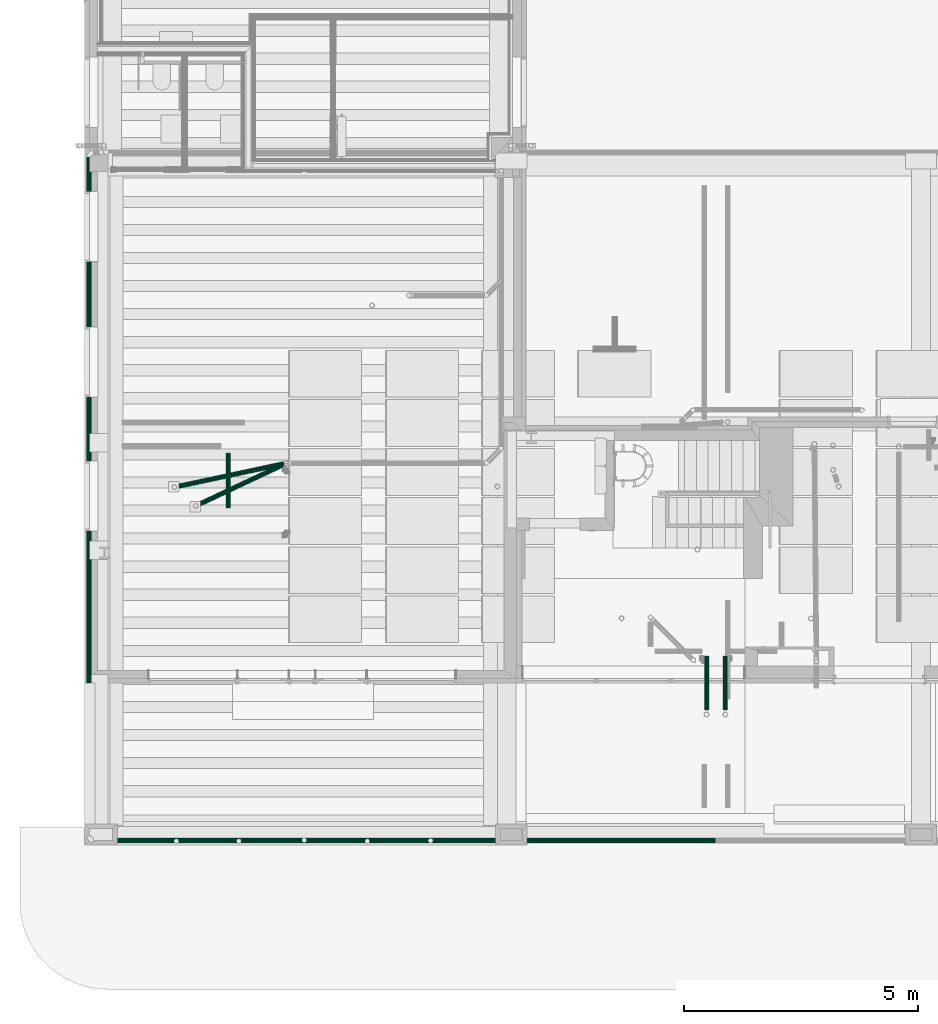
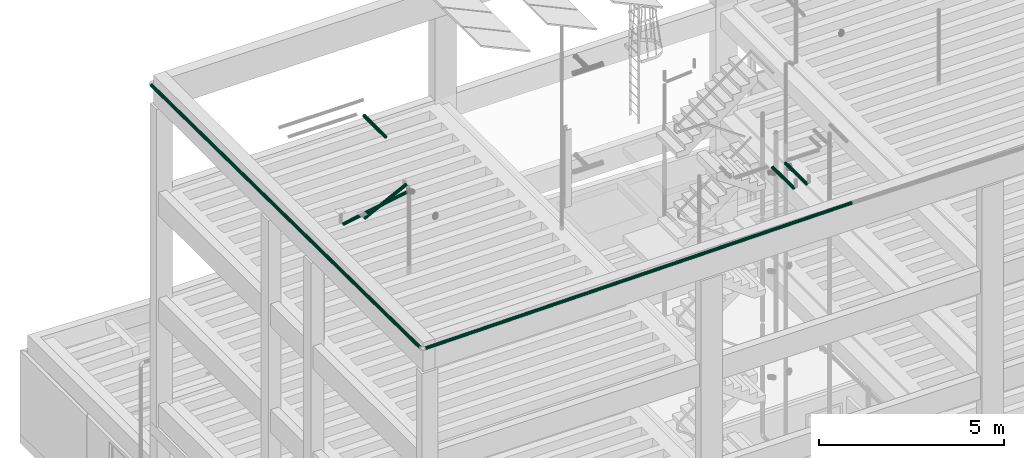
# One storey, part 36 of 108: 7 flow segments.
"""IFC2X3 building model written with IfcOpenShell, lengths in metres."""

from ifc_helpers import new_model, entity, si_unit, converted_unit, derived_unit, money_unit, direction, frame, origin_with_axes, place, context, subcontext, project, spatial, faceted_brep, material, type_object, element, save


model = new_model("IFC2X3")

# Units and contexts
model_context = context("Model", 3, precision=1e-05, world=origin_with_axes(), true_north=direction((0.0, 1.0)))
body_context = subcontext(model_context, "Body", "Model", "MODEL_VIEW", scale=1.0)
ifc_project = project(units=[si_unit("LENGTHUNIT", "METRE"), si_unit("AREAUNIT", "SQUARE_METRE"), si_unit("VOLUMEUNIT", "CUBIC_METRE"), si_unit("ABSORBEDDOSEUNIT", "GRAY"), si_unit("AMOUNTOFSUBSTANCEUNIT", "MOLE"), si_unit("DOSEEQUIVALENTUNIT", "SIEVERT"), si_unit("ELECTRICCAPACITANCEUNIT", "FARAD"), si_unit("ELECTRICCHARGEUNIT", "COULOMB"), si_unit("ELECTRICCONDUCTANCEUNIT", "SIEMENS"), si_unit("ELECTRICCURRENTUNIT", "AMPERE"), si_unit("ELECTRICRESISTANCEUNIT", "OHM"), si_unit("ELECTRICVOLTAGEUNIT", "VOLT"), si_unit("ENERGYUNIT", "JOULE"), si_unit("FORCEUNIT", "NEWTON"), si_unit("FREQUENCYUNIT", "HERTZ"), si_unit("ILLUMINANCEUNIT", "LUX"), si_unit("INDUCTANCEUNIT", "HENRY"), si_unit("LUMINOUSFLUXUNIT", "LUMEN"), si_unit("LUMINOUSINTENSITYUNIT", "CANDELA"), si_unit("MAGNETICFLUXDENSITYUNIT", "TESLA"), si_unit("MAGNETICFLUXUNIT", "WEBER"), si_unit("MASSUNIT", "GRAM"), converted_unit("PLANEANGLEUNIT", "degree", entity("IfcReal", 0.0174532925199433), si_unit("PLANEANGLEUNIT", "RADIAN"), dimensions=[0, 0, 0, 0, 0, 0, 0]), si_unit("POWERUNIT", "WATT"), si_unit("PRESSUREUNIT", "PASCAL"), si_unit("RADIOACTIVITYUNIT", "BECQUEREL"), si_unit("SOLIDANGLEUNIT", "STERADIAN"), si_unit("THERMODYNAMICTEMPERATUREUNIT", "KELVIN"), si_unit("TIMEUNIT", "SECOND"), derived_unit("ACCELERATIONUNIT", [(si_unit("LENGTHUNIT", "METRE"), 1), (si_unit("TIMEUNIT", "SECOND"), -2)]), derived_unit("ANGULARVELOCITYUNIT", [(converted_unit("PLANEANGLEUNIT", "degree", entity("IfcReal", 0.0174532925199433), si_unit("PLANEANGLEUNIT", "RADIAN"), dimensions=[0, 0, 0, 0, 0, 0, 0]), 1), (si_unit("TIMEUNIT", "SECOND"), -1)]), derived_unit("CURVATUREUNIT", [(converted_unit("PLANEANGLEUNIT", "degree", entity("IfcReal", 0.0174532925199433), si_unit("PLANEANGLEUNIT", "RADIAN"), dimensions=[0, 0, 0, 0, 0, 0, 0]), 1), (si_unit("LENGTHUNIT", "METRE"), -1)]), derived_unit("DYNAMICVISCOSITYUNIT", [(si_unit("PRESSUREUNIT", "PASCAL"), 1), (si_unit("TIMEUNIT", "SECOND"), 1)]), derived_unit("HEATFLUXDENSITYUNIT", [(si_unit("POWERUNIT", "WATT"), 1), (si_unit("LENGTHUNIT", "METRE"), -2)]), derived_unit("HEATINGVALUEUNIT", [(si_unit("ENERGYUNIT", "JOULE"), 1), (si_unit("MASSUNIT", "GRAM"), -1)]), derived_unit("INTEGERCOUNTRATEUNIT", [(si_unit("TIMEUNIT", "SECOND"), -1)]), derived_unit("IONCONCENTRATIONUNIT", [(si_unit("MASSUNIT", "GRAM"), 1), (si_unit("VOLUMEUNIT", "CUBIC_METRE"), -1)]), derived_unit("ISOTHERMALMOISTURECAPACITYUNIT", [(si_unit("VOLUMEUNIT", "CUBIC_METRE"), 1), (si_unit("MASSUNIT", "GRAM"), -1)]), derived_unit("KINEMATICVISCOSITYUNIT", [(si_unit("AREAUNIT", "SQUARE_METRE"), 1), (si_unit("TIMEUNIT", "SECOND"), -1)]), derived_unit("LINEARFORCEUNIT", [(si_unit("FORCEUNIT", "NEWTON"), 1), (si_unit("LENGTHUNIT", "METRE"), -1)]), derived_unit("LINEARMOMENTUNIT", [(si_unit("FORCEUNIT", "NEWTON"), 1), (si_unit("LENGTHUNIT", "METRE"), -1)]), derived_unit("LINEARSTIFFNESSUNIT", [(si_unit("FORCEUNIT", "NEWTON"), 1), (si_unit("LENGTHUNIT", "METRE"), -1)]), derived_unit("LINEARVELOCITYUNIT", [(si_unit("LENGTHUNIT", "METRE"), 1), (si_unit("TIMEUNIT", "SECOND"), -1)]), derived_unit("LUMINOUSINTENSITYDISTRIBUTIONUNIT", [(si_unit("LUMINOUSINTENSITYUNIT", "CANDELA"), 1), (si_unit("LUMINOUSFLUXUNIT", "LUMEN"), -1)]), derived_unit("MASSDENSITYUNIT", [(si_unit("MASSUNIT", "GRAM"), 1), (si_unit("VOLUMEUNIT", "CUBIC_METRE"), -1)]), derived_unit("MASSFLOWRATEUNIT", [(si_unit("MASSUNIT", "GRAM"), 1), (si_unit("TIMEUNIT", "SECOND"), -1)]), derived_unit("MASSPERLENGTHUNIT", [(si_unit("MASSUNIT", "GRAM"), 1), (si_unit("LENGTHUNIT", "METRE"), -1)]), derived_unit("MODULUSOFELASTICITYUNIT", [(si_unit("FORCEUNIT", "NEWTON"), 1), (si_unit("AREAUNIT", "SQUARE_METRE"), -1)]), derived_unit("MODULUSOFLINEARSUBGRADEREACTIONUNIT", [(si_unit("FORCEUNIT", "NEWTON"), 1), (si_unit("LENGTHUNIT", "METRE"), -2)]), derived_unit("MODULUSOFROTATIONALSUBGRADEREACTIONUNIT", [(si_unit("FORCEUNIT", "NEWTON"), 1), (si_unit("LENGTHUNIT", "METRE"), 1)]), derived_unit("MODULUSOFSUBGRADEREACTIONUNIT", [(si_unit("FORCEUNIT", "NEWTON"), 1), (si_unit("VOLUMEUNIT", "CUBIC_METRE"), -1)]), derived_unit("MOISTUREDIFFUSIVITYUNIT", [(si_unit("VOLUMEUNIT", "CUBIC_METRE"), 1), (si_unit("TIMEUNIT", "SECOND"), -1)]), derived_unit("MOLECULARWEIGHTUNIT", [(si_unit("MASSUNIT", "GRAM"), 1), (si_unit("AMOUNTOFSUBSTANCEUNIT", "MOLE"), -1)]), derived_unit("PLANARFORCEUNIT", [(si_unit("FORCEUNIT", "NEWTON"), 1), (si_unit("LENGTHUNIT", "METRE"), -2)]), derived_unit("ROTATIONALFREQUENCYUNIT", [(si_unit("TIMEUNIT", "SECOND"), -1)]), derived_unit("ROTATIONALMASSUNIT", [(si_unit("MASSUNIT", "GRAM"), 1), (si_unit("LENGTHUNIT", "METRE"), 2)]), derived_unit("ROTATIONALSTIFFNESSUNIT", [(si_unit("FORCEUNIT", "NEWTON"), 1), (si_unit("LENGTHUNIT", "METRE"), 1), (converted_unit("PLANEANGLEUNIT", "degree", entity("IfcReal", 0.0174532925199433), si_unit("PLANEANGLEUNIT", "RADIAN"), dimensions=[0, 0, 0, 0, 0, 0, 0]), -1)]), derived_unit("SECTIONAREAINTEGRALUNIT", [(si_unit("LENGTHUNIT", "METRE"), 5)]), derived_unit("SECTIONMODULUSUNIT", [(si_unit("LENGTHUNIT", "METRE"), 3)]), derived_unit("SHEARMODULUSUNIT", [(si_unit("FORCEUNIT", "NEWTON"), 1), (si_unit("AREAUNIT", "SQUARE_METRE"), -1)]), derived_unit("SOUNDPOWERUNIT", [(si_unit("ENERGYUNIT", "JOULE"), 1), (si_unit("TIMEUNIT", "SECOND"), -1)]), derived_unit("SPECIFICHEATCAPACITYUNIT", [(si_unit("FORCEUNIT", "NEWTON"), 1), (si_unit("MASSUNIT", "GRAM"), -1), (si_unit("THERMODYNAMICTEMPERATUREUNIT", "KELVIN"), -1)]), derived_unit("TEMPERATUREGRADIENTUNIT", [(si_unit("THERMODYNAMICTEMPERATUREUNIT", "KELVIN"), 1), (si_unit("LENGTHUNIT", "METRE"), -1)]), derived_unit("THERMALADMITTANCEUNIT", [(si_unit("POWERUNIT", "WATT"), 1), (si_unit("AREAUNIT", "SQUARE_METRE"), -1), (si_unit("THERMODYNAMICTEMPERATUREUNIT", "KELVIN"), -1)]), derived_unit("THERMALCONDUCTANCEUNIT", [(si_unit("POWERUNIT", "WATT"), 1), (si_unit("LENGTHUNIT", "METRE"), -1), (si_unit("THERMODYNAMICTEMPERATUREUNIT", "KELVIN"), -1)]), derived_unit("THERMALEXPANSIONCOEFFICIENTUNIT", [(si_unit("THERMODYNAMICTEMPERATUREUNIT", "KELVIN"), -1)]), derived_unit("THERMALRESISTANCEUNIT", [(si_unit("AREAUNIT", "SQUARE_METRE"), 1), (si_unit("POWERUNIT", "WATT"), -1)]), derived_unit("THERMALTRANSMITTANCEUNIT", [(si_unit("POWERUNIT", "WATT"), 1), (si_unit("AREAUNIT", "SQUARE_METRE"), -1), (si_unit("THERMODYNAMICTEMPERATUREUNIT", "KELVIN"), -1)]), derived_unit("TORQUEUNIT", [(si_unit("FORCEUNIT", "NEWTON"), 1), (si_unit("LENGTHUNIT", "METRE"), 1)]), derived_unit("VAPORPERMEABILITYUNIT", [(si_unit("MASSUNIT", "GRAM"), 1), (si_unit("TIMEUNIT", "SECOND"), -1)]), derived_unit("VOLUMETRICFLOWRATEUNIT", [(si_unit("VOLUMEUNIT", "CUBIC_METRE"), 1), (si_unit("TIMEUNIT", "SECOND"), -1)]), derived_unit("WARPINGCONSTANTUNIT", [(si_unit("LENGTHUNIT", "METRE"), 6)]), derived_unit("WARPINGMOMENTUNIT", [(si_unit("FORCEUNIT", "NEWTON"), 1), (si_unit("LENGTHUNIT", "METRE"), 2)]), money_unit("GBP")], contexts=[model_context])

# Site, building, storey
site_placement = place(None, origin_with_axes())
site = spatial("IfcSite", under=ifc_project, at=site_placement, Name="Site", CompositionType="ELEMENT")
building_placement = place(site_placement, origin_with_axes())
building = spatial("IfcBuilding", under=site, at=building_placement, Name="Building01", CompositionType="ELEMENT")
storey_placement = place(building_placement, origin_with_axes())
storey = spatial("IfcBuildingStorey", under=building, at=storey_placement, Name="GF", CompositionType="ELEMENT", Elevation=0.0)

# Flow segments
ifc_material_1 = material(Name="M_BSUK_Ventilation")
duct_segment_type = type_object("IfcDuctSegmentType", Name="M-RoundDuct", PredefinedType="RIGIDSEGMENT")
flow_segment_1_placement = place(storey_placement, frame((3.07, 7.209963, 17.28), z_axis=(0.0, 0.0, 1.0), x_axis=(0.0, 1.0, 0.0)))
element("IfcFlowSegment", 1, at=flow_segment_1_placement, inside=storey, type_object=duct_segment_type, material=ifc_material_1, Name="M-RoundDuct", ObjectType="M-RoundDuct", context=body_context, shape_type="Brep", body=[
    faceted_brep([(1.172595, 0.0, -0.05), (0.0, 0.0, -0.05), (0.0, 0.019134, -0.046194), (1.172595, 0.019134, -0.046194), (0.0, 0.035355, -0.035355), (1.172595, 0.035355, -0.035355), (0.0, 0.046194, -0.019134), (1.172595, 0.046194, -0.019134), (0.0, 0.05, 0.0), (1.172595, 0.05, 0.0), (0.0, 0.046194, 0.019134), (1.172595, 0.046194, 0.019134), (0.0, 0.035355, 0.035355), (1.172595, 0.035355, 0.035355), (0.0, 0.019134, 0.046194), (1.172595, 0.019134, 0.046194), (0.0, 0.0, 0.05), (1.172595, 0.0, 0.05), (0.0, -0.019134, 0.046194), (1.172595, -0.019134, 0.046194), (0.0, -0.035355, 0.035355), (1.172595, -0.035355, 0.035355), (0.0, -0.046194, 0.019134), (1.172595, -0.046194, 0.019134), (0.0, -0.05, 0.0), (1.172595, -0.05, 0.0), (0.0, -0.046194, -0.019134), (1.172595, -0.046194, -0.019134), (0.0, -0.035355, -0.035355), (1.172595, -0.035355, -0.035355), (0.0, -0.019134, -0.046194), (1.172595, -0.019134, -0.046194)], [[[0, 1, 2, 3]], [[3, 2, 4, 5]], [[5, 4, 6, 7]], [[7, 6, 8, 9]], [[9, 8, 10, 11]], [[11, 10, 12, 13]], [[13, 12, 14, 15]], [[15, 14, 16, 17]], [[17, 16, 18, 19]], [[19, 18, 20, 21]], [[21, 20, 22, 23]], [[23, 22, 24, 25]], [[25, 24, 26, 27]], [[27, 26, 28, 29]], [[29, 28, 30, 31]], [[31, 30, 1, 0]]]),
])
ifc_material_2 = material(Name="M_BSUK_ColdWater")
pipe_segment_type = type_object("IfcPipeSegmentType", Name="M-BmpStraightpipe-DefaultPipe", PredefinedType="RIGIDSEGMENT")
flow_segment_2_placement = place(storey_placement, frame((2.016639, 7.6707, 14.503893), z_axis=(0.01222179, 0.00261793, 0.99992188), x_axis=(0.97774282, 0.20943434, -0.01249902)))
element("IfcFlowSegment", 2, at=flow_segment_2_placement, inside=storey, type_object=pipe_segment_type, material=ifc_material_2, Name="M-BmpStraightpipe-DefaultPipe", ObjectType="M-BmpStraightpipe-DefaultPipe", context=body_context, shape_type="Brep", body=[
    faceted_brep([(2.295797, 0.0, -0.05), (0.0, 0.0, -0.05), (0.0, 0.019134, -0.046194), (2.295797, 0.019134, -0.046194), (0.0, 0.035355, -0.035355), (2.295797, 0.035355, -0.035355), (0.0, 0.046194, -0.019134), (2.295797, 0.046194, -0.019134), (0.0, 0.05, 0.0), (2.295797, 0.05, 0.0), (0.0, 0.046194, 0.019134), (2.295797, 0.046194, 0.019134), (0.0, 0.035355, 0.035355), (2.295797, 0.035355, 0.035355), (0.0, 0.019134, 0.046194), (2.295797, 0.019134, 0.046194), (0.0, 0.0, 0.05), (2.295797, 0.0, 0.05), (0.0, -0.019134, 0.046194), (2.295797, -0.019134, 0.046194), (0.0, -0.035355, 0.035355), (2.295797, -0.035355, 0.035355), (0.0, -0.046194, 0.019134), (2.295797, -0.046194, 0.019134), (0.0, -0.05, 0.0), (2.295797, -0.05, 0.0), (0.0, -0.046194, -0.019134), (2.295797, -0.046194, -0.019134), (0.0, -0.035355, -0.035355), (2.295797, -0.035355, -0.035355), (0.0, -0.019134, -0.046194), (2.295797, -0.019134, -0.046194)], [[[0, 1, 2, 3]], [[3, 2, 4, 5]], [[5, 4, 6, 7]], [[7, 6, 8, 9]], [[9, 8, 10, 11]], [[11, 10, 12, 13]], [[13, 12, 14, 15]], [[15, 14, 16, 17]], [[17, 16, 18, 19]], [[19, 18, 20, 21]], [[21, 20, 22, 23]], [[23, 22, 24, 25]], [[25, 24, 26, 27]], [[27, 26, 28, 29]], [[29, 28, 30, 31]], [[31, 30, 1, 0]]]),
])
flow_segment_3_placement = place(storey_placement, frame((2.464525, 7.29067, 14.780095), z_axis=(0.01130618, 0.00532877, 0.99992188), x_axis=(0.90449478, 0.42630149, -0.01249902)))
element("IfcFlowSegment", 3, at=flow_segment_3_placement, inside=storey, type_object=pipe_segment_type, material=ifc_material_2, Name="M-BmpStraightpipe-DefaultPipe", ObjectType="M-BmpStraightpipe-DefaultPipe", context=body_context, shape_type="Brep", body=[
    faceted_brep([(1.947915, 0.0, -0.05), (0.0, 0.0, -0.05), (0.0, 0.019134, -0.046194), (1.947915, 0.019134, -0.046194), (0.0, 0.035355, -0.035355), (1.947915, 0.035355, -0.035355), (0.0, 0.046194, -0.019134), (1.947915, 0.046194, -0.019134), (0.0, 0.05, 0.0), (1.947915, 0.05, 0.0), (0.0, 0.046194, 0.019134), (1.947915, 0.046194, 0.019134), (0.0, 0.035355, 0.035355), (1.947915, 0.035355, 0.035355), (0.0, 0.019134, 0.046194), (1.947915, 0.019134, 0.046194), (0.0, 0.0, 0.05), (1.947915, 0.0, 0.05), (0.0, -0.019134, 0.046194), (1.947915, -0.019134, 0.046194), (0.0, -0.035355, 0.035355), (1.947915, -0.035355, 0.035355), (0.0, -0.046194, 0.019134), (1.947915, -0.046194, 0.019134), (0.0, -0.05, 0.0), (1.947915, -0.05, 0.0), (0.0, -0.046194, -0.019134), (1.947915, -0.046194, -0.019134), (0.0, -0.035355, -0.035355), (1.947915, -0.035355, -0.035355), (0.0, -0.019134, -0.046194), (1.947915, -0.019134, -0.046194)], [[[0, 1, 2, 3]], [[3, 2, 4, 5]], [[5, 4, 6, 7]], [[7, 6, 8, 9]], [[9, 8, 10, 11]], [[11, 10, 12, 13]], [[13, 12, 14, 15]], [[15, 14, 16, 17]], [[17, 16, 18, 19]], [[19, 18, 20, 21]], [[21, 20, 22, 23]], [[23, 22, 24, 25]], [[25, 24, 26, 27]], [[27, 26, 28, 29]], [[29, 28, 30, 31]], [[31, 30, 1, 0]]]),
])
for number, where, z_axis, x_axis in (
    (4, (13.3, 2.888178, 14.639228), (0.0, 0.01249902, 0.99992188), (0.0, 0.99992188, -0.01249902)),
    (5, (13.7, 2.888178, 14.639228), (0.0, -0.01249902, -0.99992188), (0.0, 0.99992188, -0.01249902)),
):
    element("IfcFlowSegment", number, at=place(storey_placement, frame(where, z_axis=z_axis, x_axis=x_axis)), inside=storey, type_object=pipe_segment_type, material=ifc_material_2, Name="M-BmpStraightpipe-DefaultPipe", ObjectType="M-BmpStraightpipe-DefaultPipe", context=body_context, shape_type="Brep", body=[
        faceted_brep([(1.151363, 0.0, -0.05), (0.0, 0.0, -0.05), (0.0, 0.019134, -0.046194), (1.151363, 0.019134, -0.046194), (0.0, 0.035355, -0.035355), (1.151363, 0.035355, -0.035355), (0.0, 0.046194, -0.019134), (1.151363, 0.046194, -0.019134), (0.0, 0.05, 0.0), (1.151363, 0.05, 0.0), (0.0, 0.046194, 0.019134), (1.151363, 0.046194, 0.019134), (0.0, 0.035355, 0.035355), (1.151363, 0.035355, 0.035355), (0.0, 0.019134, 0.046194), (1.151363, 0.019134, 0.046194), (0.0, 0.0, 0.05), (1.151363, 0.0, 0.05), (0.0, -0.019134, 0.046194), (1.151363, -0.019134, 0.046194), (0.0, -0.035355, 0.035355), (1.151363, -0.035355, 0.035355), (0.0, -0.046194, 0.019134), (1.151363, -0.046194, 0.019134), (0.0, -0.05, 0.0), (1.151363, -0.05, 0.0), (0.0, -0.046194, -0.019134), (1.151363, -0.046194, -0.019134), (0.0, -0.035355, -0.035355), (1.151363, -0.035355, -0.035355), (0.0, -0.019134, -0.046194), (1.151363, -0.019134, -0.046194)], [[[0, 1, 2, 3]], [[3, 2, 4, 5]], [[5, 4, 6, 7]], [[7, 6, 8, 9]], [[9, 8, 10, 11]], [[11, 10, 12, 13]], [[13, 12, 14, 15]], [[15, 14, 16, 17]], [[17, 16, 18, 19]], [[19, 18, 20, 21]], [[21, 20, 22, 23]], [[23, 22, 24, 25]], [[25, 24, 26, 27]], [[27, 26, 28, 29]], [[29, 28, 30, 31]], [[31, 30, 1, 0]]]),
    ])
flow_segment_4_placement = place(storey_placement, frame((0.095, 14.706036, 15.487767), z_axis=(-1.0, 0.0, 0.0), x_axis=(0.0, 0.99994498, -0.01049024)))
element("IfcFlowSegment", 6, at=flow_segment_4_placement, inside=storey, type_object=pipe_segment_type, material=ifc_material_2, Name="M-BmpStraightpipe-DefaultPipe", ObjectType="M-BmpStraightpipe-DefaultPipe", context=body_context, shape_type="Brep", body=[
    faceted_brep([(-14.511864, 0.0, -0.05), (0.0, 0.0, -0.05), (0.0, -0.019134, -0.046194), (-14.511864, -0.019134, -0.046194), (0.0, -0.035355, -0.035355), (-14.511864, -0.035355, -0.035355), (0.0, -0.046194, -0.019134), (-14.511864, -0.046194, -0.019134), (0.0, -0.05, 0.0), (-14.511864, -0.05, 0.0), (0.0, -0.046194, 0.019134), (-14.511864, -0.046194, 0.019134), (0.0, -0.035355, 0.035355), (-14.511864, -0.035355, 0.035355), (0.0, -0.019134, 0.046194), (-14.511864, -0.019134, 0.046194), (0.0, 0.0, 0.05), (-14.511864, 0.0, 0.05), (0.0, 0.019134, 0.046194), (-14.511864, 0.019134, 0.046194), (0.0, 0.035355, 0.035355), (-14.511864, 0.035355, 0.035355), (0.0, 0.046194, 0.019134), (-14.511864, 0.046194, 0.019134), (0.0, 0.05, 0.0), (-14.511864, 0.05, 0.0), (0.0, 0.046194, -0.019134), (-14.511864, 0.046194, -0.019134), (0.0, 0.035355, -0.035355), (-14.511864, 0.035355, -0.035355), (0.0, 0.019134, -0.046194), (-14.511864, 0.019134, -0.046194)], [[[0, 1, 2, 3]], [[3, 2, 4, 5]], [[5, 4, 6, 7]], [[7, 6, 8, 9]], [[9, 8, 10, 11]], [[11, 10, 12, 13]], [[13, 12, 14, 15]], [[15, 14, 16, 17]], [[17, 16, 18, 19]], [[19, 18, 20, 21]], [[21, 20, 22, 23]], [[23, 22, 24, 25]], [[25, 24, 26, 27]], [[27, 26, 28, 29]], [[29, 28, 30, 31]], [[31, 30, 1, 0]]]),
])
flow_segment_5_placement = place(storey_placement, frame((0.192995, 0.095, 15.640506), z_axis=(0.0, -1.0, 0.0), x_axis=(-0.99994498, 0.0, -0.01049024)))
element("IfcFlowSegment", 7, at=flow_segment_5_placement, inside=storey, type_object=pipe_segment_type, material=ifc_material_2, Name="M-BmpStraightpipe-DefaultPipe", ObjectType="M-BmpStraightpipe-DefaultPipe", context=body_context, shape_type="Brep", body=[
    faceted_brep([(-13.297212, 0.0, -0.05), (0.0, 0.0, -0.05), (0.0, -0.019134, -0.046194), (-13.297212, -0.019134, -0.046194), (0.0, -0.035355, -0.035355), (-13.297212, -0.035355, -0.035355), (0.0, -0.046194, -0.019134), (-13.297212, -0.046194, -0.019134), (0.0, -0.05, 0.0), (-13.297212, -0.05, 0.0), (0.0, -0.046194, 0.019134), (-13.297212, -0.046194, 0.019134), (0.0, -0.035355, 0.035355), (-13.297212, -0.035355, 0.035355), (0.0, -0.019134, 0.046194), (-13.297212, -0.019134, 0.046194), (0.0, 0.0, 0.05), (-13.297212, 0.0, 0.05), (0.0, 0.019134, 0.046194), (-13.297212, 0.019134, 0.046194), (0.0, 0.035355, 0.035355), (-13.297212, 0.035355, 0.035355), (0.0, 0.046194, 0.019134), (-13.297212, 0.046194, 0.019134), (0.0, 0.05, 0.0), (-13.297212, 0.05, 0.0), (0.0, 0.046194, -0.019134), (-13.297212, 0.046194, -0.019134), (0.0, 0.035355, -0.035355), (-13.297212, 0.035355, -0.035355), (0.0, 0.019134, -0.046194), (-13.297212, 0.019134, -0.046194)], [[[0, 1, 2, 3]], [[3, 2, 4, 5]], [[5, 4, 6, 7]], [[7, 6, 8, 9]], [[9, 8, 10, 11]], [[11, 10, 12, 13]], [[13, 12, 14, 15]], [[15, 14, 16, 17]], [[17, 16, 18, 19]], [[19, 18, 20, 21]], [[21, 20, 22, 23]], [[23, 22, 24, 25]], [[25, 24, 26, 27]], [[27, 26, 28, 29]], [[29, 28, 30, 31]], [[31, 30, 1, 0]]]),
])

save(model, "model.ifc")
